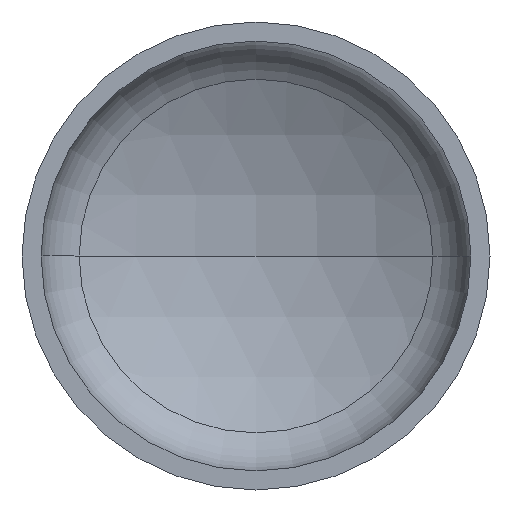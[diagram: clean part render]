
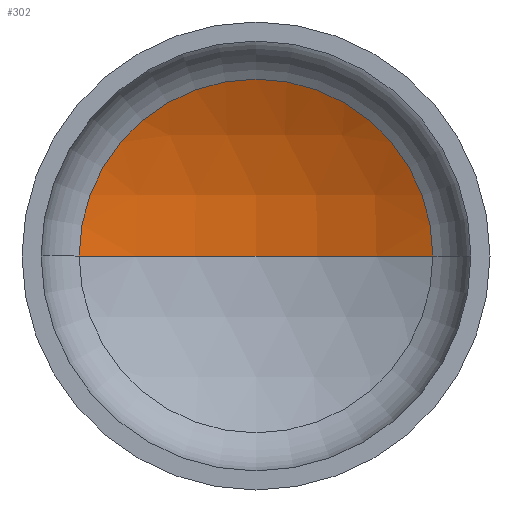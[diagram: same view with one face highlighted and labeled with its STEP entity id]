
A CAD part, front view. The second image highlights one B-rep face of the part: STEP entity #302.
In plain terms, the highlighted spherical face has radius 960 mm.
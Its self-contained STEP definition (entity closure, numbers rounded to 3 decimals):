
#5 = AXIS2_PLACEMENT_3D ( 'NONE', #131, #322, #177 ) ;
#17 = AXIS2_PLACEMENT_3D ( 'NONE', #164, #343, #64 ) ;
#21 = AXIS2_PLACEMENT_3D ( 'NONE', #25, #201, #170 ) ;
#25 = CARTESIAN_POINT ( 'NONE',  ( 0., -533.132, 0. ) ) ;
#40 = EDGE_LOOP ( 'NONE', ( #230, #82, #210 ) ) ;
#64 = DIRECTION ( 'NONE',  ( 1., 0., 0. ) ) ;
#71 = VERTEX_POINT ( 'NONE', #327 ) ;
#79 = DIRECTION ( 'NONE',  ( 0., 0., -1. ) ) ;
#82 = ORIENTED_EDGE ( 'NONE', *, *, #384, .T. ) ;
#127 = DIRECTION ( 'NONE',  ( -1., 0., 0. ) ) ;
#131 = CARTESIAN_POINT ( 'NONE',  ( 0., -533.132, 0. ) ) ;
#147 = VERTEX_POINT ( 'NONE', #191 ) ;
#164 = CARTESIAN_POINT ( 'NONE',  ( 0., 313.07, 0. ) ) ;
#170 = DIRECTION ( 'NONE',  ( -1., 0., 0. ) ) ;
#177 = DIRECTION ( 'NONE',  ( 1., 0., 0. ) ) ;
#191 = CARTESIAN_POINT ( 'NONE',  ( 0., 426.868, 0. ) ) ;
#192 = VERTEX_POINT ( 'NONE', #196 ) ;
#196 = CARTESIAN_POINT ( 'NONE',  ( 453.368, 313.07, 0. ) ) ;
#201 = DIRECTION ( 'NONE',  ( 0., 0., -1. ) ) ;
#208 = CIRCLE ( 'NONE', #5, 960. ) ;
#210 = ORIENTED_EDGE ( 'NONE', *, *, #336, .T. ) ;
#222 = CIRCLE ( 'NONE', #17, 453.368 ) ;
#230 = ORIENTED_EDGE ( 'NONE', *, *, #378, .F. ) ;
#292 = CARTESIAN_POINT ( 'NONE',  ( 0., -533.132, 0. ) ) ;
#302 = ADVANCED_FACE ( 'NONE', ( #363 ), #359, .F. ) ;
#311 = AXIS2_PLACEMENT_3D ( 'NONE', #292, #79, #127 ) ;
#322 = DIRECTION ( 'NONE',  ( 0., 0., 1. ) ) ;
#327 = CARTESIAN_POINT ( 'NONE',  ( -453.368, 313.07, 0. ) ) ;
#332 = CIRCLE ( 'NONE', #311, 960. ) ;
#336 = EDGE_CURVE ( 'NONE', #192, #71, #222, .T. ) ;
#343 = DIRECTION ( 'NONE',  ( 0., -1., 0. ) ) ;
#359 = SPHERICAL_SURFACE ( 'NONE', #21, 960. ) ;
#363 = FACE_OUTER_BOUND ( 'NONE', #40, .T. ) ;
#378 = EDGE_CURVE ( 'NONE', #147, #71, #208, .T. ) ;
#384 = EDGE_CURVE ( 'NONE', #147, #192, #332, .T. ) ;
